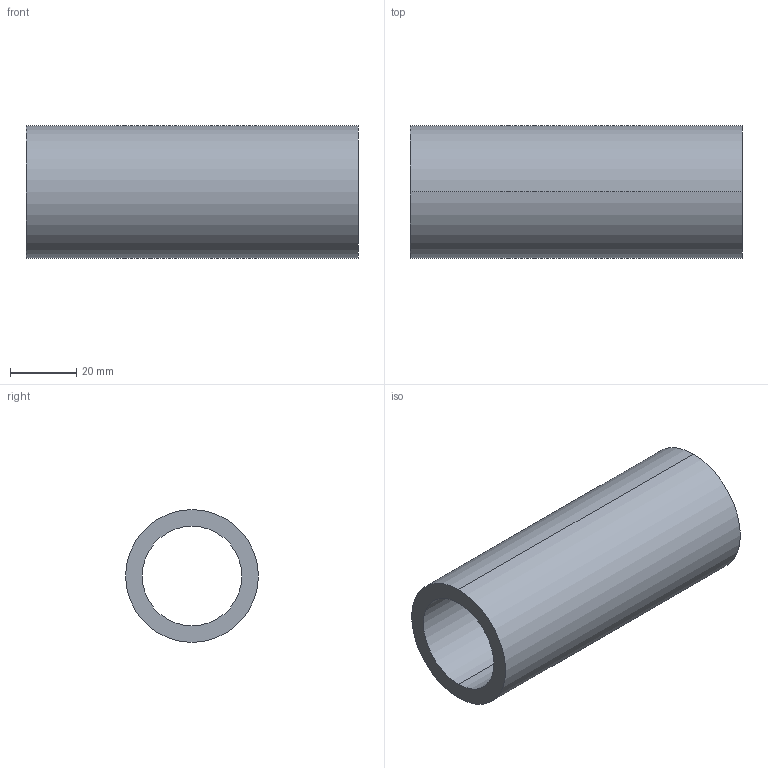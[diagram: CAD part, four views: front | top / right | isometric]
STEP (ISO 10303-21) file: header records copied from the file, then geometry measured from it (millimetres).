
FILE_DESCRIPTION (( 'STEP AP214' ), '1' );
FILE_NAME ('084.101.066.STEP', '2020-07-23T07:40:07', ( '' ), ( '' ), 'SwSTEP 2.0', 'SolidWorks 2018', '' );
FILE_SCHEMA (( 'AUTOMOTIVE_DESIGN' ));
Length unit declared in the file: millimetre
Products named in the file (1): 084.101.066
Bounding box: 100 x 40 x 40 mm (x, y, z)
Volume: 54977.9 mm3; surface area: 23090.7 mm2
Topology: 1 solids, 1 shells, 6 faces, 12 edges, 8 vertices
Faces by surface type: cylinder 4, plane 2
Entity records: 202 total; most frequent: DIRECTION 34, CARTESIAN_POINT 27, ORIENTED_EDGE 24, AXIS2_PLACEMENT_3D 15, EDGE_CURVE 12, VERTEX_POINT 8, CIRCLE 8, EDGE_LOOP 8
